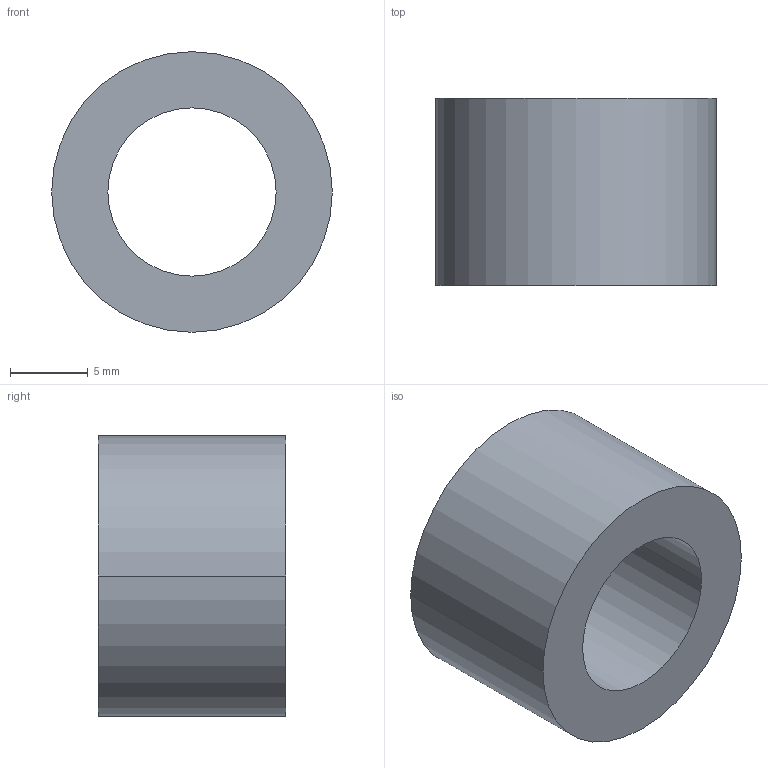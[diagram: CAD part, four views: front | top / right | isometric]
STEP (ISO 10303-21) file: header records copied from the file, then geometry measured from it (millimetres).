
FILE_DESCRIPTION (( 'STEP AP203' ), '1' );
FILE_NAME ('30800.WPP18E10.8.step', '2019-01-23T22:35:41', ( '' ), ( '' ), 'SwSTEP 2.0', 'SolidWorks 2017', '' );
FILE_SCHEMA (( 'CONFIG_CONTROL_DESIGN' ));
Length unit declared in the file: millimetre
Products named in the file (1): 30800.WPP18E10.8
Bounding box: 18 x 12 x 18 mm (x, y, z)
Volume: 1922.8 mm3; surface area: 1384.1 mm2
Topology: 1 solids, 1 shells, 8 faces, 16 edges, 10 vertices
Faces by surface type: cylinder 4, torus 2, plane 2
Entity records: 297 total; most frequent: DIRECTION 46, CARTESIAN_POINT 35, ORIENTED_EDGE 32, AXIS2_PLACEMENT_3D 21, EDGE_CURVE 16, CIRCLE 12, EDGE_LOOP 10, VERTEX_POINT 10
